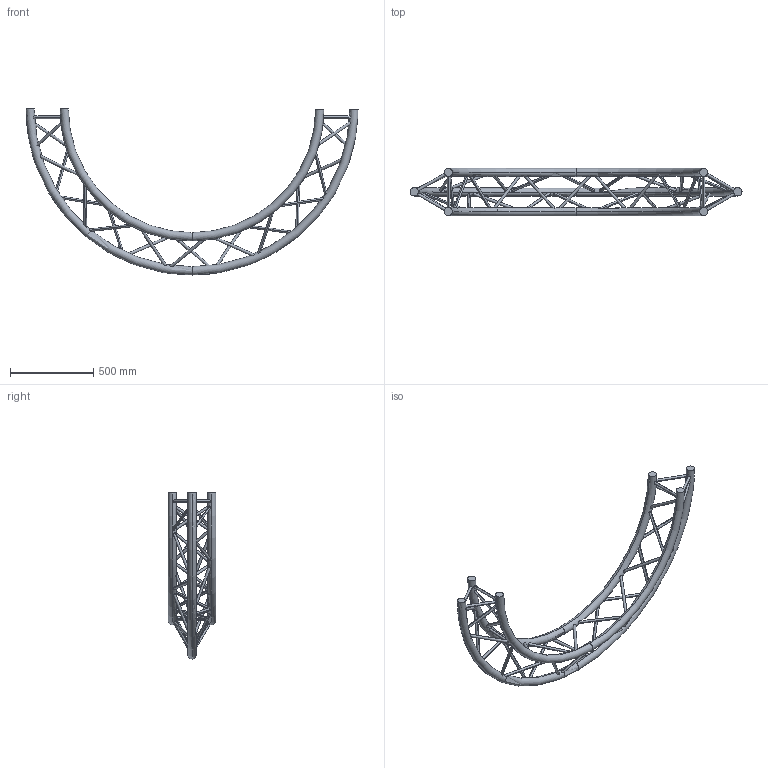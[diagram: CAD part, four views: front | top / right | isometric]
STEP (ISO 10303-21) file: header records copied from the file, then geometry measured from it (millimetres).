
FILE_DESCRIPTION (( 'STEP AP203' ), '1' );
FILE_NAME ('SXC29200PE.STEP', '2009-10-21T09:40:15', ( 'CEDIA' ), ( 'CEDIA INDUSTRIE' ), 'SwSTEP 2.0', 'SolidWorks 2009', '' );
FILE_SCHEMA (( 'CONFIG_CONTROL_DESIGN' ));
Length unit declared in the file: millimetre
Products named in the file (1): SXC29200PE
Bounding box: 2000 x 287 x 1000 mm (x, y, z)
Volume: 17441430.8 mm3; surface area: 1716105.7 mm2
Topology: 1 solids, 1 shells, 96 faces, 264 edges, 174 vertices
Faces by surface type: cylinder 78, torus 12, plane 6
Entity records: 10184 total; most frequent: CARTESIAN_POINT 7796, ORIENTED_EDGE 528, DIRECTION 332, EDGE_CURVE 264, EDGE_LOOP 174, VERTEX_POINT 174, B_SPLINE_CURVE_WITH_KNOTS 156, AXIS2_PLACEMENT_3D 127
